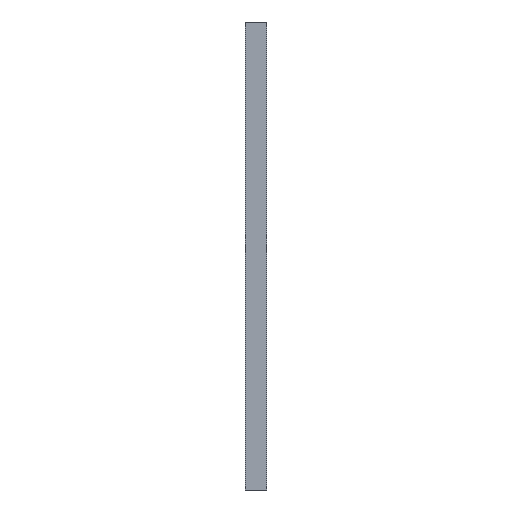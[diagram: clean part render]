
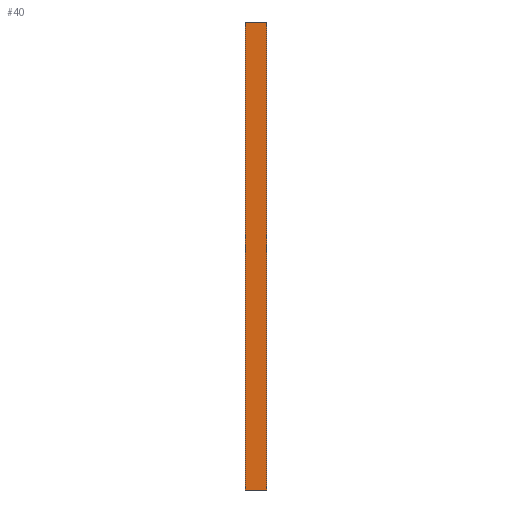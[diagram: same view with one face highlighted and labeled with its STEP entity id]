
A CAD part, front view. The second image highlights one B-rep face of the part: STEP entity #40.
In plain terms, the highlighted planar face has unit normal (0, -1, 0).
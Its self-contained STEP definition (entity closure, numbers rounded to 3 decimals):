
#40=ADVANCED_FACE('',(#70),#1147,.T.);
#70=FACE_OUTER_BOUND('',#100,.T.);
#100=EDGE_LOOP('',(#146,#147,#148,#149));
#146=ORIENTED_EDGE('',*,*,#862,.T.);
#147=ORIENTED_EDGE('',*,*,#863,.T.);
#148=ORIENTED_EDGE('',*,*,#864,.T.);
#149=ORIENTED_EDGE('',*,*,#865,.T.);
#314=PCURVE('',#1147,#482);
#315=PCURVE('',#1147,#483);
#316=PCURVE('',#1147,#484);
#317=PCURVE('',#1147,#485);
#321=PCURVE('',#1148,#489);
#327=PCURVE('',#1150,#495);
#405=PCURVE('',#1154,#573);
#430=PCURVE('',#1155,#598);
#482=DEFINITIONAL_REPRESENTATION('',(#650),#2256);
#483=DEFINITIONAL_REPRESENTATION('',(#651),#2256);
#484=DEFINITIONAL_REPRESENTATION('',(#652),#2256);
#485=DEFINITIONAL_REPRESENTATION('',(#653),#2256);
#489=DEFINITIONAL_REPRESENTATION('',(#657),#2256);
#495=DEFINITIONAL_REPRESENTATION('',(#663),#2256);
#573=DEFINITIONAL_REPRESENTATION('',(#1011),#2256);
#598=DEFINITIONAL_REPRESENTATION('',(#1039),#2256);
#650=B_SPLINE_CURVE_WITH_KNOTS('',1,(#1549,#1550),.UNSPECIFIED.,.F.,.F.,
(2,2),(139.114,159.114),.UNSPECIFIED.);
#651=B_SPLINE_CURVE_WITH_KNOTS('',1,(#1553,#1554),.UNSPECIFIED.,.F.,.F.,
(2,2),(0.,6.),.UNSPECIFIED.);
#652=B_SPLINE_CURVE_WITH_KNOTS('',1,(#1557,#1558),.UNSPECIFIED.,.F.,.F.,
(2,2),(-159.114,-139.114),.UNSPECIFIED.);
#653=B_SPLINE_CURVE_WITH_KNOTS('',1,(#1561,#1562),.UNSPECIFIED.,.F.,.F.,
(2,2),(-6.,0.),.UNSPECIFIED.);
#657=B_SPLINE_CURVE_WITH_KNOTS('',1,(#1575,#1576),.UNSPECIFIED.,.F.,.F.,
(2,2),(0.,6.),.UNSPECIFIED.);
#663=B_SPLINE_CURVE_WITH_KNOTS('',1,(#1595,#1596),.UNSPECIFIED.,.F.,.F.,
(2,2),(-6.,0.),.UNSPECIFIED.);
#778=SURFACE_CURVE('',#946,(#314,#405),.PCURVE_S1.);
#779=SURFACE_CURVE('',#947,(#315,#321),.PCURVE_S1.);
#780=SURFACE_CURVE('',#948,(#316,#430),.PCURVE_S1.);
#781=SURFACE_CURVE('',#949,(#317,#327),.PCURVE_S1.);
#862=EDGE_CURVE('',#1070,#1071,#778,.T.);
#863=EDGE_CURVE('',#1071,#1072,#779,.T.);
#864=EDGE_CURVE('',#1072,#1073,#780,.T.);
#865=EDGE_CURVE('',#1073,#1070,#781,.T.);
#946=(
BOUNDED_CURVE()
B_SPLINE_CURVE(1,(#1547,#1548),.UNSPECIFIED.,.F.,.F.)
B_SPLINE_CURVE_WITH_KNOTS((2,2),(139.114,159.114),
 .UNSPECIFIED.)
CURVE()
GEOMETRIC_REPRESENTATION_ITEM()
RATIONAL_B_SPLINE_CURVE((1.,1.))
REPRESENTATION_ITEM('')
);
#947=(
BOUNDED_CURVE()
B_SPLINE_CURVE(1,(#1551,#1552),.UNSPECIFIED.,.F.,.F.)
B_SPLINE_CURVE_WITH_KNOTS((2,2),(0.,6.),.UNSPECIFIED.)
CURVE()
GEOMETRIC_REPRESENTATION_ITEM()
RATIONAL_B_SPLINE_CURVE((1.,1.))
REPRESENTATION_ITEM('')
);
#948=(
BOUNDED_CURVE()
B_SPLINE_CURVE(1,(#1555,#1556),.UNSPECIFIED.,.F.,.F.)
B_SPLINE_CURVE_WITH_KNOTS((2,2),(-159.114,-139.114),
 .UNSPECIFIED.)
CURVE()
GEOMETRIC_REPRESENTATION_ITEM()
RATIONAL_B_SPLINE_CURVE((1.,1.))
REPRESENTATION_ITEM('')
);
#949=(
BOUNDED_CURVE()
B_SPLINE_CURVE(1,(#1559,#1560),.UNSPECIFIED.,.F.,.F.)
B_SPLINE_CURVE_WITH_KNOTS((2,2),(-6.,0.),.UNSPECIFIED.)
CURVE()
GEOMETRIC_REPRESENTATION_ITEM()
RATIONAL_B_SPLINE_CURVE((1.,1.))
REPRESENTATION_ITEM('')
);
#1011=(
BOUNDED_CURVE()
B_SPLINE_CURVE(1,(#1939,#1940),.UNSPECIFIED.,.F.,.F.)
B_SPLINE_CURVE_WITH_KNOTS((2,2),(139.114,159.114),
 .UNSPECIFIED.)
CURVE()
GEOMETRIC_REPRESENTATION_ITEM()
RATIONAL_B_SPLINE_CURVE((1.,1.))
REPRESENTATION_ITEM('')
);
#1039=(
BOUNDED_CURVE()
B_SPLINE_CURVE(1,(#2070,#2071),.UNSPECIFIED.,.F.,.F.)
B_SPLINE_CURVE_WITH_KNOTS((2,2),(-159.114,-139.114),
 .UNSPECIFIED.)
CURVE()
GEOMETRIC_REPRESENTATION_ITEM()
RATIONAL_B_SPLINE_CURVE((1.,1.))
REPRESENTATION_ITEM('')
);
#1070=VERTEX_POINT('',#1491);
#1071=VERTEX_POINT('',#1492);
#1072=VERTEX_POINT('',#1493);
#1073=VERTEX_POINT('',#1494);
#1147=PLANE('',#1176);
#1148=PLANE('',#1177);
#1150=PLANE('',#1179);
#1154=PLANE('',#1183);
#1155=PLANE('',#1184);
#1176=AXIS2_PLACEMENT_3D('',#1200,#1188,$);
#1177=AXIS2_PLACEMENT_3D('',#1201,#1189,$);
#1179=AXIS2_PLACEMENT_3D('',#1203,#1191,$);
#1183=AXIS2_PLACEMENT_3D('',#1381,#1195,$);
#1184=AXIS2_PLACEMENT_3D('',#1382,#1196,$);
#1188=DIRECTION('',(0.,-1.,0.));
#1189=DIRECTION('',(0.,0.,-1.));
#1191=DIRECTION('',(0.,0.,1.));
#1195=DIRECTION('',(-1.,0.,0.));
#1196=DIRECTION('',(1.,0.,0.));
#1200=CARTESIAN_POINT('',(817.,350.,-35.));
#1201=CARTESIAN_POINT('',(817.,350.,-165.));
#1203=CARTESIAN_POINT('',(817.,550.,-35.));
#1381=CARTESIAN_POINT('',(817.,350.,-165.));
#1382=CARTESIAN_POINT('',(823.,350.,-165.));
#1491=CARTESIAN_POINT('',(817.,350.,-35.));
#1492=CARTESIAN_POINT('',(817.,350.,-165.));
#1493=CARTESIAN_POINT('',(823.,350.,-165.));
#1494=CARTESIAN_POINT('',(823.,350.,-35.));
#1547=CARTESIAN_POINT('',(817.,350.,-35.));
#1548=CARTESIAN_POINT('',(817.,350.,-165.));
#1549=CARTESIAN_POINT('',(139.114,0.));
#1550=CARTESIAN_POINT('',(159.114,0.));
#1551=CARTESIAN_POINT('',(817.,350.,-165.));
#1552=CARTESIAN_POINT('',(823.,350.,-165.));
#1553=CARTESIAN_POINT('',(159.114,0.));
#1554=CARTESIAN_POINT('',(159.114,6.));
#1555=CARTESIAN_POINT('',(823.,350.,-165.));
#1556=CARTESIAN_POINT('',(823.,350.,-35.));
#1557=CARTESIAN_POINT('',(159.114,6.));
#1558=CARTESIAN_POINT('',(139.114,6.));
#1559=CARTESIAN_POINT('',(823.,350.,-35.));
#1560=CARTESIAN_POINT('',(817.,350.,-35.));
#1561=CARTESIAN_POINT('',(139.114,6.));
#1562=CARTESIAN_POINT('',(139.114,0.));
#1575=CARTESIAN_POINT('',(159.114,0.));
#1576=CARTESIAN_POINT('',(159.114,6.));
#1595=CARTESIAN_POINT('',(757.428,6.));
#1596=CARTESIAN_POINT('',(757.428,0.));
#1939=CARTESIAN_POINT('',(55.5,-146.1));
#1940=CARTESIAN_POINT('',(-74.5,-146.1));
#2070=CARTESIAN_POINT('',(-146.1,-74.5));
#2071=CARTESIAN_POINT('',(-146.1,55.5));
#2256=(
GEOMETRIC_REPRESENTATION_CONTEXT(2)
PARAMETRIC_REPRESENTATION_CONTEXT()
REPRESENTATION_CONTEXT('pspace','')
);
